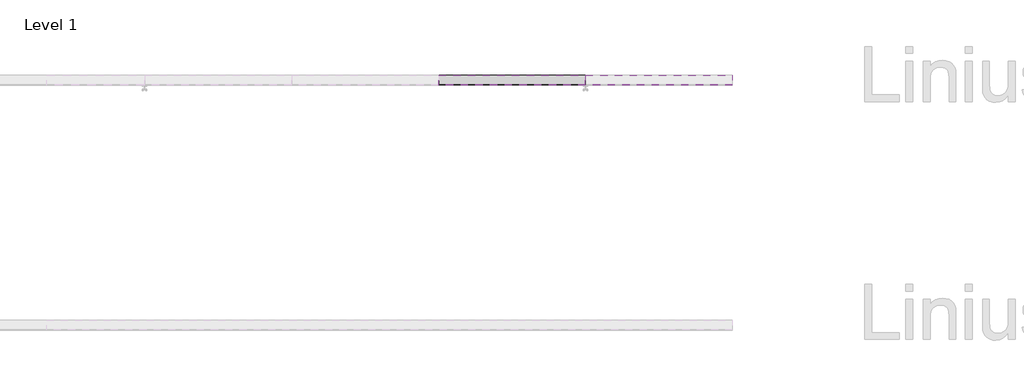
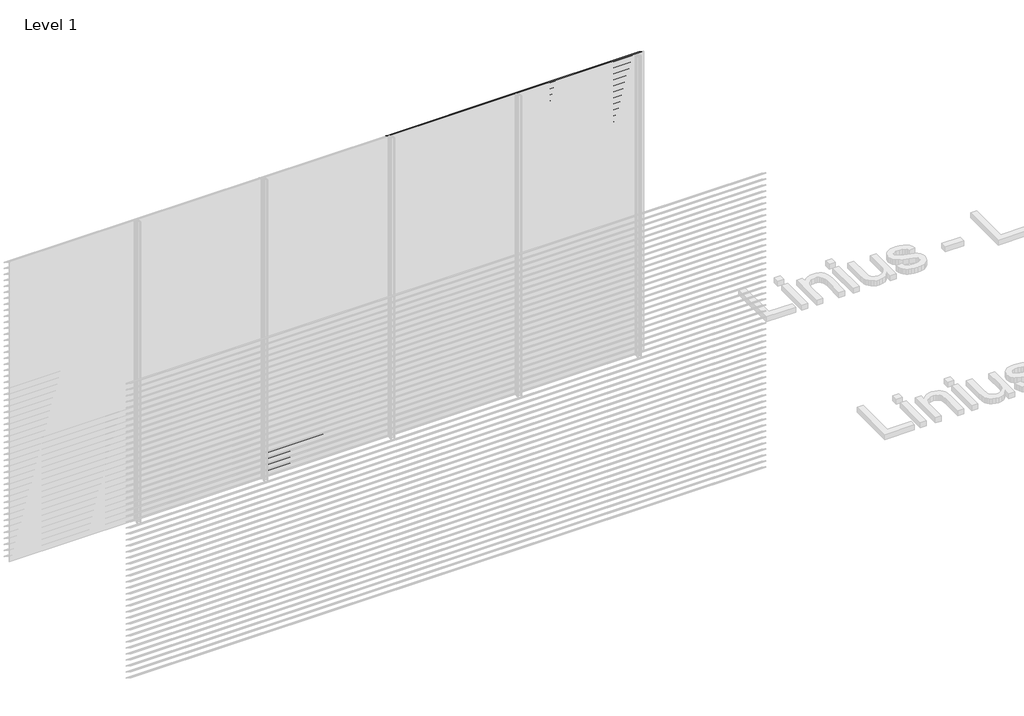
# One storey, part 22 of 153: 84 proxies.
"""IFC4 building model written with IfcOpenShell, lengths in millimetres."""

from ifc_helpers import new_model, si_unit, frame, origin, place, context, project, spatial, polyline, outline, extrude, element, save

model = new_model("IFC4")

# Units and contexts
model_context = context("Model", 3, world=origin())
ifc_project = project(units=[si_unit("LENGTHUNIT", "METRE", prefix="MILLI")], contexts=[model_context])

# Site, building, storey
site = spatial("IfcSite", under=ifc_project)
building = spatial("IfcBuilding", under=site)
storey = spatial("IfcBuildingStorey", under=building, Name="Level 1", Elevation=0.0)

# Proxies
placement = place(None, origin())
element("IfcBuildingElementProxy", 1, Name="Wall Sweeps", at=placement, inside=storey, context=model_context, shape_type="SweptSolid", body=[
    extrude(outline(polyline([(21561.0540136, 186.0), (21561.0540136, 180.0), (21559.8040136, 180.7216933), (21559.8040136, 185.2538091), (21483.0540136, 233.9915103), (21483.0540136, 240.0), (21484.3040136, 240.0), (21484.3040136, 234.7377012), (21561.0540136, 186.0)])), frame((2866.6208097, 0.0, 0.0), z_axis=(1.0, 0.0, 0.0), x_axis=(0.0, 1.0, 0.0)), (0.0, 0.0, 1.0), 1199.9999999),
])
element("IfcBuildingElementProxy", 2, Name="Wall Sweeps", at=placement, inside=storey, context=model_context, shape_type="SweptSolid", body=[
    extrude(outline(polyline([(21561.0540136, 126.0), (21561.0540136, 120.0), (21559.8040136, 120.7216933), (21559.8040136, 125.2538091), (21483.0540136, 173.9915103), (21483.0540136, 180.0), (21484.3040136, 180.0), (21484.3040136, 174.7377012), (21561.0540136, 126.0)])), frame((2866.6208097, 0.0, 0.0), z_axis=(1.0, 0.0, 0.0), x_axis=(0.0, 1.0, 0.0)), (0.0, 0.0, 1.0), 1199.9999999),
])
element("IfcBuildingElementProxy", 3, Name="Wall Sweeps", at=placement, inside=storey, context=model_context, shape_type="SweptSolid", body=[
    extrude(outline(polyline([(21561.0540136, 66.0), (21561.0540136, 60.0), (21559.8040136, 60.7216933), (21559.8040136, 65.2538091), (21483.0540136, 113.9915103), (21483.0540136, 120.0), (21484.3040136, 120.0), (21484.3040136, 114.7377012), (21561.0540136, 66.0)])), frame((2866.6208097, 0.0, 0.0), z_axis=(1.0, 0.0, 0.0), x_axis=(0.0, 1.0, 0.0)), (0.0, 0.0, 1.0), 1199.9999999),
])
element("IfcBuildingElementProxy", 4, Name="Wall Sweeps", at=placement, inside=storey, context=model_context, shape_type="SweptSolid", body=[
    extrude(outline(polyline([(21561.0540136, 6.0), (21561.0540136, 0.0), (21559.8040136, 0.7216933), (21559.8040136, 5.2538091), (21483.0540136, 53.9915103), (21483.0540136, 60.0), (21484.3040136, 60.0), (21484.3040136, 54.7377012), (21561.0540136, 6.0)])), frame((2866.6208097, 0.0, 0.0), z_axis=(1.0, 0.0, 0.0), x_axis=(0.0, 1.0, 0.0)), (0.0, 0.0, 1.0), 1199.9999999),
])
element("IfcBuildingElementProxy", 5, Name="Wall Sweeps", at=placement, inside=storey, context=model_context, shape_type="SweptSolid", body=[
    extrude(outline(polyline([(21561.0540136, 2946.0), (21561.0540136, 2940.0), (21559.8040136, 2940.7216933), (21559.8040136, 2945.2538091), (21483.0540136, 2993.9915103), (21483.0540136, 3000.0), (21484.3040136, 3000.0), (21484.3040136, 2994.7377012), (21561.0540136, 2946.0)])), frame((4066.6208096, 0.0, 0.0), z_axis=(1.0, 0.0, 0.0), x_axis=(0.0, 1.0, 0.0)), (0.0, 0.0, 1.0), 1199.9999999),
])
element("IfcBuildingElementProxy", 6, Name="Wall Sweeps", at=placement, inside=storey, context=model_context, shape_type="SweptSolid", body=[
    extrude(outline(polyline([(21561.0540136, 2886.0), (21561.0540136, 2880.0), (21559.8040136, 2880.7216933), (21559.8040136, 2885.2538091), (21483.0540136, 2933.9915103), (21483.0540136, 2940.0), (21484.3040136, 2940.0), (21484.3040136, 2934.7377012), (21561.0540136, 2886.0)])), frame((4066.6208096, 0.0, 0.0), z_axis=(1.0, 0.0, 0.0), x_axis=(0.0, 1.0, 0.0)), (0.0, 0.0, 1.0), 1199.9999999),
])
element("IfcBuildingElementProxy", 7, Name="Wall Sweeps", at=placement, inside=storey, context=model_context, shape_type="SweptSolid", body=[
    extrude(outline(polyline([(21561.0540136, 2826.0), (21561.0540136, 2820.0), (21559.8040136, 2820.7216933), (21559.8040136, 2825.2538091), (21483.0540136, 2873.9915103), (21483.0540136, 2880.0), (21484.3040136, 2880.0), (21484.3040136, 2874.7377012), (21561.0540136, 2826.0)])), frame((4066.6208096, 0.0, 0.0), z_axis=(1.0, 0.0, 0.0), x_axis=(0.0, 1.0, 0.0)), (0.0, 0.0, 1.0), 1199.9999999),
])
element("IfcBuildingElementProxy", 8, Name="Wall Sweeps", at=placement, inside=storey, context=model_context, shape_type="SweptSolid", body=[
    extrude(outline(polyline([(21561.0540136, 2766.0), (21561.0540136, 2760.0), (21559.8040136, 2760.7216933), (21559.8040136, 2765.2538091), (21483.0540136, 2813.9915103), (21483.0540136, 2820.0), (21484.3040136, 2820.0), (21484.3040136, 2814.7377012), (21561.0540136, 2766.0)])), frame((4066.6208096, 0.0, 0.0), z_axis=(1.0, 0.0, 0.0), x_axis=(0.0, 1.0, 0.0)), (0.0, 0.0, 1.0), 1199.9999999),
])
element("IfcBuildingElementProxy", 9, Name="Wall Sweeps", at=placement, inside=storey, context=model_context, shape_type="SweptSolid", body=[
    extrude(outline(polyline([(21561.0540136, 2706.0), (21561.0540136, 2700.0), (21559.8040136, 2700.7216933), (21559.8040136, 2705.2538091), (21483.0540136, 2753.9915103), (21483.0540136, 2760.0), (21484.3040136, 2760.0), (21484.3040136, 2754.7377012), (21561.0540136, 2706.0)])), frame((4066.6208096, 0.0, 0.0), z_axis=(1.0, 0.0, 0.0), x_axis=(0.0, 1.0, 0.0)), (0.0, 0.0, 1.0), 1199.9999999),
])
element("IfcBuildingElementProxy", 10, Name="Wall Sweeps", at=placement, inside=storey, context=model_context, shape_type="SweptSolid", body=[
    extrude(outline(polyline([(21561.0540136, 2646.0), (21561.0540136, 2640.0), (21559.8040136, 2640.7216933), (21559.8040136, 2645.2538091), (21483.0540136, 2693.9915103), (21483.0540136, 2700.0), (21484.3040136, 2700.0), (21484.3040136, 2694.7377012), (21561.0540136, 2646.0)])), frame((4066.6208096, 0.0, 0.0), z_axis=(1.0, 0.0, 0.0), x_axis=(0.0, 1.0, 0.0)), (0.0, 0.0, 1.0), 1199.9999999),
])
element("IfcBuildingElementProxy", 11, Name="Wall Sweeps", at=placement, inside=storey, context=model_context, shape_type="SweptSolid", body=[
    extrude(outline(polyline([(21561.0540136, 2586.0), (21561.0540136, 2580.0), (21559.8040136, 2580.7216933), (21559.8040136, 2585.2538091), (21483.0540136, 2633.9915103), (21483.0540136, 2640.0), (21484.3040136, 2640.0), (21484.3040136, 2634.7377012), (21561.0540136, 2586.0)])), frame((4066.6208096, 0.0, 0.0), z_axis=(1.0, 0.0, 0.0), x_axis=(0.0, 1.0, 0.0)), (0.0, 0.0, 1.0), 1199.9999999),
])
element("IfcBuildingElementProxy", 12, Name="Wall Sweeps", at=placement, inside=storey, context=model_context, shape_type="SweptSolid", body=[
    extrude(outline(polyline([(21561.0540136, 2526.0), (21561.0540136, 2520.0), (21559.8040136, 2520.7216933), (21559.8040136, 2525.2538091), (21483.0540136, 2573.9915103), (21483.0540136, 2580.0), (21484.3040136, 2580.0), (21484.3040136, 2574.7377012), (21561.0540136, 2526.0)])), frame((4066.6208096, 0.0, 0.0), z_axis=(1.0, 0.0, 0.0), x_axis=(0.0, 1.0, 0.0)), (0.0, 0.0, 1.0), 1199.9999999),
])
element("IfcBuildingElementProxy", 13, Name="Wall Sweeps", at=placement, inside=storey, context=model_context, shape_type="SweptSolid", body=[
    extrude(outline(polyline([(21561.0540136, 2466.0), (21561.0540136, 2460.0), (21559.8040136, 2460.7216933), (21559.8040136, 2465.2538091), (21483.0540136, 2513.9915103), (21483.0540136, 2520.0), (21484.3040136, 2520.0), (21484.3040136, 2514.7377012), (21561.0540136, 2466.0)])), frame((4066.6208096, 0.0, 0.0), z_axis=(1.0, 0.0, 0.0), x_axis=(0.0, 1.0, 0.0)), (0.0, 0.0, 1.0), 1199.9999999),
])
element("IfcBuildingElementProxy", 14, Name="Wall Sweeps", at=placement, inside=storey, context=model_context, shape_type="SweptSolid", body=[
    extrude(outline(polyline([(21561.0540136, 2406.0), (21561.0540136, 2400.0), (21559.8040136, 2400.7216933), (21559.8040136, 2405.2538091), (21483.0540136, 2453.9915103), (21483.0540136, 2460.0), (21484.3040136, 2460.0), (21484.3040136, 2454.7377012), (21561.0540136, 2406.0)])), frame((4066.6208096, 0.0, 0.0), z_axis=(1.0, 0.0, 0.0), x_axis=(0.0, 1.0, 0.0)), (0.0, 0.0, 1.0), 1199.9999999),
])
element("IfcBuildingElementProxy", 15, Name="Wall Sweeps", at=placement, inside=storey, context=model_context, shape_type="SweptSolid", body=[
    extrude(outline(polyline([(21561.0540136, 2346.0), (21561.0540136, 2340.0), (21559.8040136, 2340.7216933), (21559.8040136, 2345.2538091), (21483.0540136, 2393.9915103), (21483.0540136, 2400.0), (21484.3040136, 2400.0), (21484.3040136, 2394.7377012), (21561.0540136, 2346.0)])), frame((4066.6208096, 0.0, 0.0), z_axis=(1.0, 0.0, 0.0), x_axis=(0.0, 1.0, 0.0)), (0.0, 0.0, 1.0), 1199.9999999),
])
element("IfcBuildingElementProxy", 16, Name="Wall Sweeps", at=placement, inside=storey, context=model_context, shape_type="SweptSolid", body=[
    extrude(outline(polyline([(21561.0540136, 2286.0), (21561.0540136, 2280.0), (21559.8040136, 2280.7216933), (21559.8040136, 2285.2538091), (21483.0540136, 2333.9915103), (21483.0540136, 2340.0), (21484.3040136, 2340.0), (21484.3040136, 2334.7377012), (21561.0540136, 2286.0)])), frame((4066.6208096, 0.0, 0.0), z_axis=(1.0, 0.0, 0.0), x_axis=(0.0, 1.0, 0.0)), (0.0, 0.0, 1.0), 1199.9999999),
])
element("IfcBuildingElementProxy", 17, Name="Wall Sweeps", at=placement, inside=storey, context=model_context, shape_type="SweptSolid", body=[
    extrude(outline(polyline([(21561.0540136, 2226.0), (21561.0540136, 2220.0), (21559.8040136, 2220.7216933), (21559.8040136, 2225.2538091), (21483.0540136, 2273.9915103), (21483.0540136, 2280.0), (21484.3040136, 2280.0), (21484.3040136, 2274.7377012), (21561.0540136, 2226.0)])), frame((4066.6208096, 0.0, 0.0), z_axis=(1.0, 0.0, 0.0), x_axis=(0.0, 1.0, 0.0)), (0.0, 0.0, 1.0), 1199.9999999),
])
element("IfcBuildingElementProxy", 18, Name="Wall Sweeps", at=placement, inside=storey, context=model_context, shape_type="SweptSolid", body=[
    extrude(outline(polyline([(21561.0540136, 2166.0), (21561.0540136, 2160.0), (21559.8040136, 2160.7216933), (21559.8040136, 2165.2538091), (21483.0540136, 2213.9915103), (21483.0540136, 2220.0), (21484.3040136, 2220.0), (21484.3040136, 2214.7377012), (21561.0540136, 2166.0)])), frame((4066.6208096, 0.0, 0.0), z_axis=(1.0, 0.0, 0.0), x_axis=(0.0, 1.0, 0.0)), (0.0, 0.0, 1.0), 1199.9999999),
])
element("IfcBuildingElementProxy", 19, Name="Wall Sweeps", at=placement, inside=storey, context=model_context, shape_type="SweptSolid", body=[
    extrude(outline(polyline([(21561.0540136, 2106.0), (21561.0540136, 2100.0), (21559.8040136, 2100.7216933), (21559.8040136, 2105.2538091), (21483.0540136, 2153.9915103), (21483.0540136, 2160.0), (21484.3040136, 2160.0), (21484.3040136, 2154.7377012), (21561.0540136, 2106.0)])), frame((4066.6208096, 0.0, 0.0), z_axis=(1.0, 0.0, 0.0), x_axis=(0.0, 1.0, 0.0)), (0.0, 0.0, 1.0), 1199.9999999),
])
element("IfcBuildingElementProxy", 20, Name="Wall Sweeps", at=placement, inside=storey, context=model_context, shape_type="SweptSolid", body=[
    extrude(outline(polyline([(21561.0540136, 2046.0), (21561.0540136, 2040.0), (21559.8040136, 2040.7216933), (21559.8040136, 2045.2538091), (21483.0540136, 2093.9915103), (21483.0540136, 2100.0), (21484.3040136, 2100.0), (21484.3040136, 2094.7377012), (21561.0540136, 2046.0)])), frame((4066.6208096, 0.0, 0.0), z_axis=(1.0, 0.0, 0.0), x_axis=(0.0, 1.0, 0.0)), (0.0, 0.0, 1.0), 1199.9999999),
])
element("IfcBuildingElementProxy", 21, Name="Wall Sweeps", at=placement, inside=storey, context=model_context, shape_type="SweptSolid", body=[
    extrude(outline(polyline([(21561.0540136, 1986.0), (21561.0540136, 1980.0), (21559.8040136, 1980.7216933), (21559.8040136, 1985.2538091), (21483.0540136, 2033.9915103), (21483.0540136, 2040.0), (21484.3040136, 2040.0), (21484.3040136, 2034.7377012), (21561.0540136, 1986.0)])), frame((4066.6208096, 0.0, 0.0), z_axis=(1.0, 0.0, 0.0), x_axis=(0.0, 1.0, 0.0)), (0.0, 0.0, 1.0), 1199.9999999),
])
element("IfcBuildingElementProxy", 22, Name="Wall Sweeps", at=placement, inside=storey, context=model_context, shape_type="SweptSolid", body=[
    extrude(outline(polyline([(21561.0540136, 1926.0), (21561.0540136, 1920.0), (21559.8040136, 1920.7216933), (21559.8040136, 1925.2538091), (21483.0540136, 1973.9915103), (21483.0540136, 1980.0), (21484.3040136, 1980.0), (21484.3040136, 1974.7377012), (21561.0540136, 1926.0)])), frame((4066.6208096, 0.0, 0.0), z_axis=(1.0, 0.0, 0.0), x_axis=(0.0, 1.0, 0.0)), (0.0, 0.0, 1.0), 1199.9999999),
])
element("IfcBuildingElementProxy", 23, Name="Wall Sweeps", at=placement, inside=storey, context=model_context, shape_type="SweptSolid", body=[
    extrude(outline(polyline([(21561.0540136, 1866.0), (21561.0540136, 1860.0), (21559.8040136, 1860.7216933), (21559.8040136, 1865.2538091), (21483.0540136, 1913.9915103), (21483.0540136, 1920.0), (21484.3040136, 1920.0), (21484.3040136, 1914.7377012), (21561.0540136, 1866.0)])), frame((4066.6208096, 0.0, 0.0), z_axis=(1.0, 0.0, 0.0), x_axis=(0.0, 1.0, 0.0)), (0.0, 0.0, 1.0), 1199.9999999),
])
element("IfcBuildingElementProxy", 24, Name="Wall Sweeps", at=placement, inside=storey, context=model_context, shape_type="SweptSolid", body=[
    extrude(outline(polyline([(21561.0540136, 1806.0), (21561.0540136, 1800.0), (21559.8040136, 1800.7216933), (21559.8040136, 1805.2538091), (21483.0540136, 1853.9915103), (21483.0540136, 1860.0), (21484.3040136, 1860.0), (21484.3040136, 1854.7377012), (21561.0540136, 1806.0)])), frame((4066.6208096, 0.0, 0.0), z_axis=(1.0, 0.0, 0.0), x_axis=(0.0, 1.0, 0.0)), (0.0, 0.0, 1.0), 1199.9999999),
])
element("IfcBuildingElementProxy", 25, Name="Wall Sweeps", at=placement, inside=storey, context=model_context, shape_type="SweptSolid", body=[
    extrude(outline(polyline([(21561.0540136, 1746.0), (21561.0540136, 1740.0), (21559.8040136, 1740.7216933), (21559.8040136, 1745.2538091), (21483.0540136, 1793.9915103), (21483.0540136, 1800.0), (21484.3040136, 1800.0), (21484.3040136, 1794.7377012), (21561.0540136, 1746.0)])), frame((4066.6208096, 0.0, 0.0), z_axis=(1.0, 0.0, 0.0), x_axis=(0.0, 1.0, 0.0)), (0.0, 0.0, 1.0), 1199.9999999),
])
element("IfcBuildingElementProxy", 26, Name="Wall Sweeps", at=placement, inside=storey, context=model_context, shape_type="SweptSolid", body=[
    extrude(outline(polyline([(21561.0540136, 1686.0), (21561.0540136, 1680.0), (21559.8040136, 1680.7216933), (21559.8040136, 1685.2538091), (21483.0540136, 1733.9915103), (21483.0540136, 1740.0), (21484.3040136, 1740.0), (21484.3040136, 1734.7377012), (21561.0540136, 1686.0)])), frame((4066.6208096, 0.0, 0.0), z_axis=(1.0, 0.0, 0.0), x_axis=(0.0, 1.0, 0.0)), (0.0, 0.0, 1.0), 1199.9999999),
])
element("IfcBuildingElementProxy", 27, Name="Wall Sweeps", at=placement, inside=storey, context=model_context, shape_type="SweptSolid", body=[
    extrude(outline(polyline([(21561.0540136, 1626.0), (21561.0540136, 1620.0), (21559.8040136, 1620.7216933), (21559.8040136, 1625.2538091), (21483.0540136, 1673.9915103), (21483.0540136, 1680.0), (21484.3040136, 1680.0), (21484.3040136, 1674.7377012), (21561.0540136, 1626.0)])), frame((4066.6208096, 0.0, 0.0), z_axis=(1.0, 0.0, 0.0), x_axis=(0.0, 1.0, 0.0)), (0.0, 0.0, 1.0), 1199.9999999),
])
element("IfcBuildingElementProxy", 28, Name="Wall Sweeps", at=placement, inside=storey, context=model_context, shape_type="SweptSolid", body=[
    extrude(outline(polyline([(21561.0540136, 1566.0), (21561.0540136, 1560.0), (21559.8040136, 1560.7216933), (21559.8040136, 1565.2538091), (21483.0540136, 1613.9915103), (21483.0540136, 1620.0), (21484.3040136, 1620.0), (21484.3040136, 1614.7377012), (21561.0540136, 1566.0)])), frame((4066.6208096, 0.0, 0.0), z_axis=(1.0, 0.0, 0.0), x_axis=(0.0, 1.0, 0.0)), (0.0, 0.0, 1.0), 1199.9999999),
])
element("IfcBuildingElementProxy", 29, Name="Wall Sweeps", at=placement, inside=storey, context=model_context, shape_type="SweptSolid", body=[
    extrude(outline(polyline([(21561.0540136, 1506.0), (21561.0540136, 1500.0), (21559.8040136, 1500.7216933), (21559.8040136, 1505.2538091), (21483.0540136, 1553.9915103), (21483.0540136, 1560.0), (21484.3040136, 1560.0), (21484.3040136, 1554.7377012), (21561.0540136, 1506.0)])), frame((4066.6208096, 0.0, 0.0), z_axis=(1.0, 0.0, 0.0), x_axis=(0.0, 1.0, 0.0)), (0.0, 0.0, 1.0), 1199.9999999),
])
element("IfcBuildingElementProxy", 30, Name="Wall Sweeps", at=placement, inside=storey, context=model_context, shape_type="SweptSolid", body=[
    extrude(outline(polyline([(21561.0540136, 1446.0), (21561.0540136, 1440.0), (21559.8040136, 1440.7216933), (21559.8040136, 1445.2538091), (21483.0540136, 1493.9915103), (21483.0540136, 1500.0), (21484.3040136, 1500.0), (21484.3040136, 1494.7377012), (21561.0540136, 1446.0)])), frame((4066.6208096, 0.0, 0.0), z_axis=(1.0, 0.0, 0.0), x_axis=(0.0, 1.0, 0.0)), (0.0, 0.0, 1.0), 1199.9999999),
])
element("IfcBuildingElementProxy", 31, Name="Wall Sweeps", at=placement, inside=storey, context=model_context, shape_type="SweptSolid", body=[
    extrude(outline(polyline([(21561.0540136, 1386.0), (21561.0540136, 1380.0), (21559.8040136, 1380.7216933), (21559.8040136, 1385.2538091), (21483.0540136, 1433.9915103), (21483.0540136, 1440.0), (21484.3040136, 1440.0), (21484.3040136, 1434.7377012), (21561.0540136, 1386.0)])), frame((4066.6208096, 0.0, 0.0), z_axis=(1.0, 0.0, 0.0), x_axis=(0.0, 1.0, 0.0)), (0.0, 0.0, 1.0), 1199.9999999),
])
element("IfcBuildingElementProxy", 32, Name="Wall Sweeps", at=placement, inside=storey, context=model_context, shape_type="SweptSolid", body=[
    extrude(outline(polyline([(21561.0540136, 1326.0), (21561.0540136, 1320.0), (21559.8040136, 1320.7216933), (21559.8040136, 1325.2538091), (21483.0540136, 1373.9915103), (21483.0540136, 1380.0), (21484.3040136, 1380.0), (21484.3040136, 1374.7377012), (21561.0540136, 1326.0)])), frame((4066.6208096, 0.0, 0.0), z_axis=(1.0, 0.0, 0.0), x_axis=(0.0, 1.0, 0.0)), (0.0, 0.0, 1.0), 1199.9999999),
])
element("IfcBuildingElementProxy", 33, Name="Wall Sweeps", at=placement, inside=storey, context=model_context, shape_type="SweptSolid", body=[
    extrude(outline(polyline([(21561.0540136, 1266.0), (21561.0540136, 1260.0), (21559.8040136, 1260.7216933), (21559.8040136, 1265.2538091), (21483.0540136, 1313.9915103), (21483.0540136, 1320.0), (21484.3040136, 1320.0), (21484.3040136, 1314.7377012), (21561.0540136, 1266.0)])), frame((4066.6208096, 0.0, 0.0), z_axis=(1.0, 0.0, 0.0), x_axis=(0.0, 1.0, 0.0)), (0.0, 0.0, 1.0), 1199.9999999),
])
element("IfcBuildingElementProxy", 34, Name="Wall Sweeps", at=placement, inside=storey, context=model_context, shape_type="SweptSolid", body=[
    extrude(outline(polyline([(21561.0540136, 1206.0), (21561.0540136, 1200.0), (21559.8040136, 1200.7216933), (21559.8040136, 1205.2538091), (21483.0540136, 1253.9915103), (21483.0540136, 1260.0), (21484.3040136, 1260.0), (21484.3040136, 1254.7377012), (21561.0540136, 1206.0)])), frame((4066.6208096, 0.0, 0.0), z_axis=(1.0, 0.0, 0.0), x_axis=(0.0, 1.0, 0.0)), (0.0, 0.0, 1.0), 1199.9999999),
])
element("IfcBuildingElementProxy", 35, Name="Wall Sweeps", at=placement, inside=storey, context=model_context, shape_type="SweptSolid", body=[
    extrude(outline(polyline([(21561.0540136, 1146.0), (21561.0540136, 1140.0), (21559.8040136, 1140.7216933), (21559.8040136, 1145.2538091), (21483.0540136, 1193.9915103), (21483.0540136, 1200.0), (21484.3040136, 1200.0), (21484.3040136, 1194.7377012), (21561.0540136, 1146.0)])), frame((4066.6208096, 0.0, 0.0), z_axis=(1.0, 0.0, 0.0), x_axis=(0.0, 1.0, 0.0)), (0.0, 0.0, 1.0), 1199.9999999),
])
element("IfcBuildingElementProxy", 36, Name="Wall Sweeps", at=placement, inside=storey, context=model_context, shape_type="SweptSolid", body=[
    extrude(outline(polyline([(21561.0540136, 1086.0), (21561.0540136, 1080.0), (21559.8040136, 1080.7216933), (21559.8040136, 1085.2538091), (21483.0540136, 1133.9915103), (21483.0540136, 1140.0), (21484.3040136, 1140.0), (21484.3040136, 1134.7377012), (21561.0540136, 1086.0)])), frame((4066.6208096, 0.0, 0.0), z_axis=(1.0, 0.0, 0.0), x_axis=(0.0, 1.0, 0.0)), (0.0, 0.0, 1.0), 1199.9999999),
])
element("IfcBuildingElementProxy", 37, Name="Wall Sweeps", at=placement, inside=storey, context=model_context, shape_type="SweptSolid", body=[
    extrude(outline(polyline([(21561.0540136, 1026.0), (21561.0540136, 1020.0), (21559.8040136, 1020.7216933), (21559.8040136, 1025.2538091), (21483.0540136, 1073.9915103), (21483.0540136, 1080.0), (21484.3040136, 1080.0), (21484.3040136, 1074.7377012), (21561.0540136, 1026.0)])), frame((4066.6208096, 0.0, 0.0), z_axis=(1.0, 0.0, 0.0), x_axis=(0.0, 1.0, 0.0)), (0.0, 0.0, 1.0), 1199.9999999),
])
element("IfcBuildingElementProxy", 38, Name="Wall Sweeps", at=placement, inside=storey, context=model_context, shape_type="SweptSolid", body=[
    extrude(outline(polyline([(21561.0540136, 966.0), (21561.0540136, 960.0), (21559.8040136, 960.7216933), (21559.8040136, 965.2538091), (21483.0540136, 1013.9915103), (21483.0540136, 1020.0), (21484.3040136, 1020.0), (21484.3040136, 1014.7377012), (21561.0540136, 966.0)])), frame((4066.6208096, 0.0, 0.0), z_axis=(1.0, 0.0, 0.0), x_axis=(0.0, 1.0, 0.0)), (0.0, 0.0, 1.0), 1199.9999999),
])
element("IfcBuildingElementProxy", 39, Name="Wall Sweeps", at=placement, inside=storey, context=model_context, shape_type="SweptSolid", body=[
    extrude(outline(polyline([(21561.0540136, 906.0), (21561.0540136, 900.0), (21559.8040136, 900.7216933), (21559.8040136, 905.2538091), (21483.0540136, 953.9915103), (21483.0540136, 960.0), (21484.3040136, 960.0), (21484.3040136, 954.7377012), (21561.0540136, 906.0)])), frame((4066.6208096, 0.0, 0.0), z_axis=(1.0, 0.0, 0.0), x_axis=(0.0, 1.0, 0.0)), (0.0, 0.0, 1.0), 1199.9999999),
])
element("IfcBuildingElementProxy", 40, Name="Wall Sweeps", at=placement, inside=storey, context=model_context, shape_type="SweptSolid", body=[
    extrude(outline(polyline([(21561.0540136, 846.0), (21561.0540136, 840.0), (21559.8040136, 840.7216933), (21559.8040136, 845.2538091), (21483.0540136, 893.9915103), (21483.0540136, 900.0), (21484.3040136, 900.0), (21484.3040136, 894.7377012), (21561.0540136, 846.0)])), frame((4066.6208096, 0.0, 0.0), z_axis=(1.0, 0.0, 0.0), x_axis=(0.0, 1.0, 0.0)), (0.0, 0.0, 1.0), 1199.9999999),
])
element("IfcBuildingElementProxy", 41, Name="Wall Sweeps", at=placement, inside=storey, context=model_context, shape_type="SweptSolid", body=[
    extrude(outline(polyline([(21561.0540136, 786.0), (21561.0540136, 780.0), (21559.8040136, 780.7216933), (21559.8040136, 785.2538091), (21483.0540136, 833.9915103), (21483.0540136, 840.0), (21484.3040136, 840.0), (21484.3040136, 834.7377012), (21561.0540136, 786.0)])), frame((4066.6208096, 0.0, 0.0), z_axis=(1.0, 0.0, 0.0), x_axis=(0.0, 1.0, 0.0)), (0.0, 0.0, 1.0), 1199.9999999),
])
element("IfcBuildingElementProxy", 42, Name="Wall Sweeps", at=placement, inside=storey, context=model_context, shape_type="SweptSolid", body=[
    extrude(outline(polyline([(21561.0540136, 726.0), (21561.0540136, 720.0), (21559.8040136, 720.7216933), (21559.8040136, 725.2538091), (21483.0540136, 773.9915103), (21483.0540136, 780.0), (21484.3040136, 780.0), (21484.3040136, 774.7377012), (21561.0540136, 726.0)])), frame((4066.6208096, 0.0, 0.0), z_axis=(1.0, 0.0, 0.0), x_axis=(0.0, 1.0, 0.0)), (0.0, 0.0, 1.0), 1199.9999999),
])
element("IfcBuildingElementProxy", 43, Name="Wall Sweeps", at=placement, inside=storey, context=model_context, shape_type="SweptSolid", body=[
    extrude(outline(polyline([(21561.0540136, 666.0), (21561.0540136, 660.0), (21559.8040136, 660.7216933), (21559.8040136, 665.2538091), (21483.0540136, 713.9915103), (21483.0540136, 720.0), (21484.3040136, 720.0), (21484.3040136, 714.7377012), (21561.0540136, 666.0)])), frame((4066.6208096, 0.0, 0.0), z_axis=(1.0, 0.0, 0.0), x_axis=(0.0, 1.0, 0.0)), (0.0, 0.0, 1.0), 1199.9999999),
])
element("IfcBuildingElementProxy", 44, Name="Wall Sweeps", at=placement, inside=storey, context=model_context, shape_type="SweptSolid", body=[
    extrude(outline(polyline([(21561.0540136, 606.0), (21561.0540136, 600.0), (21559.8040136, 600.7216933), (21559.8040136, 605.2538091), (21483.0540136, 653.9915103), (21483.0540136, 660.0), (21484.3040136, 660.0), (21484.3040136, 654.7377012), (21561.0540136, 606.0)])), frame((4066.6208096, 0.0, 0.0), z_axis=(1.0, 0.0, 0.0), x_axis=(0.0, 1.0, 0.0)), (0.0, 0.0, 1.0), 1199.9999999),
])
element("IfcBuildingElementProxy", 45, Name="Wall Sweeps", at=placement, inside=storey, context=model_context, shape_type="SweptSolid", body=[
    extrude(outline(polyline([(21561.0540136, 546.0), (21561.0540136, 540.0), (21559.8040136, 540.7216933), (21559.8040136, 545.2538091), (21483.0540136, 593.9915103), (21483.0540136, 600.0), (21484.3040136, 600.0), (21484.3040136, 594.7377012), (21561.0540136, 546.0)])), frame((4066.6208096, 0.0, 0.0), z_axis=(1.0, 0.0, 0.0), x_axis=(0.0, 1.0, 0.0)), (0.0, 0.0, 1.0), 1199.9999999),
])
element("IfcBuildingElementProxy", 46, Name="Wall Sweeps", at=placement, inside=storey, context=model_context, shape_type="SweptSolid", body=[
    extrude(outline(polyline([(21561.0540136, 486.0), (21561.0540136, 480.0), (21559.8040136, 480.7216933), (21559.8040136, 485.2538091), (21483.0540136, 533.9915103), (21483.0540136, 540.0), (21484.3040136, 540.0), (21484.3040136, 534.7377012), (21561.0540136, 486.0)])), frame((4066.6208096, 0.0, 0.0), z_axis=(1.0, 0.0, 0.0), x_axis=(0.0, 1.0, 0.0)), (0.0, 0.0, 1.0), 1199.9999999),
])
element("IfcBuildingElementProxy", 47, Name="Wall Sweeps", at=placement, inside=storey, context=model_context, shape_type="SweptSolid", body=[
    extrude(outline(polyline([(21561.0540136, 426.0), (21561.0540136, 420.0), (21559.8040136, 420.7216933), (21559.8040136, 425.2538091), (21483.0540136, 473.9915103), (21483.0540136, 480.0), (21484.3040136, 480.0), (21484.3040136, 474.7377012), (21561.0540136, 426.0)])), frame((4066.6208096, 0.0, 0.0), z_axis=(1.0, 0.0, 0.0), x_axis=(0.0, 1.0, 0.0)), (0.0, 0.0, 1.0), 1199.9999999),
])
element("IfcBuildingElementProxy", 48, Name="Wall Sweeps", at=placement, inside=storey, context=model_context, shape_type="SweptSolid", body=[
    extrude(outline(polyline([(21561.0540136, 366.0), (21561.0540136, 360.0), (21559.8040136, 360.7216933), (21559.8040136, 365.2538091), (21483.0540136, 413.9915103), (21483.0540136, 420.0), (21484.3040136, 420.0), (21484.3040136, 414.7377012), (21561.0540136, 366.0)])), frame((4066.6208096, 0.0, 0.0), z_axis=(1.0, 0.0, 0.0), x_axis=(0.0, 1.0, 0.0)), (0.0, 0.0, 1.0), 1199.9999999),
])
element("IfcBuildingElementProxy", 49, Name="Wall Sweeps", at=placement, inside=storey, context=model_context, shape_type="SweptSolid", body=[
    extrude(outline(polyline([(21561.0540136, 306.0), (21561.0540136, 300.0), (21559.8040136, 300.7216933), (21559.8040136, 305.2538091), (21483.0540136, 353.9915103), (21483.0540136, 360.0), (21484.3040136, 360.0), (21484.3040136, 354.7377012), (21561.0540136, 306.0)])), frame((4066.6208096, 0.0, 0.0), z_axis=(1.0, 0.0, 0.0), x_axis=(0.0, 1.0, 0.0)), (0.0, 0.0, 1.0), 1199.9999999),
])
element("IfcBuildingElementProxy", 50, Name="Wall Sweeps", at=placement, inside=storey, context=model_context, shape_type="SweptSolid", body=[
    extrude(outline(polyline([(21561.0540136, 246.0), (21561.0540136, 240.0), (21559.8040136, 240.7216933), (21559.8040136, 245.2538091), (21483.0540136, 293.9915103), (21483.0540136, 300.0), (21484.3040136, 300.0), (21484.3040136, 294.7377012), (21561.0540136, 246.0)])), frame((4066.6208096, 0.0, 0.0), z_axis=(1.0, 0.0, 0.0), x_axis=(0.0, 1.0, 0.0)), (0.0, 0.0, 1.0), 1199.9999999),
])
element("IfcBuildingElementProxy", 51, Name="Wall Sweeps", at=placement, inside=storey, context=model_context, shape_type="SweptSolid", body=[
    extrude(outline(polyline([(21561.0540136, 186.0), (21561.0540136, 180.0), (21559.8040136, 180.7216933), (21559.8040136, 185.2538091), (21483.0540136, 233.9915103), (21483.0540136, 240.0), (21484.3040136, 240.0), (21484.3040136, 234.7377012), (21561.0540136, 186.0)])), frame((4066.6208096, 0.0, 0.0), z_axis=(1.0, 0.0, 0.0), x_axis=(0.0, 1.0, 0.0)), (0.0, 0.0, 1.0), 1199.9999999),
])
element("IfcBuildingElementProxy", 52, Name="Wall Sweeps", at=placement, inside=storey, context=model_context, shape_type="SweptSolid", body=[
    extrude(outline(polyline([(21561.0540136, 126.0), (21561.0540136, 120.0), (21559.8040136, 120.7216933), (21559.8040136, 125.2538091), (21483.0540136, 173.9915103), (21483.0540136, 180.0), (21484.3040136, 180.0), (21484.3040136, 174.7377012), (21561.0540136, 126.0)])), frame((4066.6208096, 0.0, 0.0), z_axis=(1.0, 0.0, 0.0), x_axis=(0.0, 1.0, 0.0)), (0.0, 0.0, 1.0), 1199.9999999),
])
element("IfcBuildingElementProxy", 53, Name="Wall Sweeps", at=placement, inside=storey, context=model_context, shape_type="SweptSolid", body=[
    extrude(outline(polyline([(21561.0540136, 66.0), (21561.0540136, 60.0), (21559.8040136, 60.7216933), (21559.8040136, 65.2538091), (21483.0540136, 113.9915103), (21483.0540136, 120.0), (21484.3040136, 120.0), (21484.3040136, 114.7377012), (21561.0540136, 66.0)])), frame((4066.6208096, 0.0, 0.0), z_axis=(1.0, 0.0, 0.0), x_axis=(0.0, 1.0, 0.0)), (0.0, 0.0, 1.0), 1199.9999999),
])
element("IfcBuildingElementProxy", 54, Name="Wall Sweeps", at=placement, inside=storey, context=model_context, shape_type="SweptSolid", body=[
    extrude(outline(polyline([(21561.0540136, 6.0), (21561.0540136, 0.0), (21559.8040136, 0.7216933), (21559.8040136, 5.2538091), (21483.0540136, 53.9915103), (21483.0540136, 60.0), (21484.3040136, 60.0), (21484.3040136, 54.7377012), (21561.0540136, 6.0)])), frame((4066.6208096, 0.0, 0.0), z_axis=(1.0, 0.0, 0.0), x_axis=(0.0, 1.0, 0.0)), (0.0, 0.0, 1.0), 1199.9999999),
])
element("IfcBuildingElementProxy", 55, Name="Wall Sweeps", at=placement, inside=storey, context=model_context, shape_type="SweptSolid", body=[
    extrude(outline(polyline([(21561.0540136, 2946.0), (21561.0540136, 2940.0), (21559.8040136, 2940.7216933), (21559.8040136, 2945.2538091), (21483.0540136, 2993.9915103), (21483.0540136, 3000.0), (21484.3040136, 3000.0), (21484.3040136, 2994.7377012), (21561.0540136, 2946.0)])), frame((5266.6208095, 0.0, 0.0), z_axis=(1.0, 0.0, 0.0), x_axis=(0.0, 1.0, 0.0)), (0.0, 0.0, 1.0), 1200.0000002),
])
element("IfcBuildingElementProxy", 56, Name="Wall Sweeps", at=placement, inside=storey, context=model_context, shape_type="SweptSolid", body=[
    extrude(outline(polyline([(21561.0540136, 2886.0), (21561.0540136, 2880.0), (21559.8040136, 2880.7216933), (21559.8040136, 2885.2538091), (21483.0540136, 2933.9915103), (21483.0540136, 2940.0), (21484.3040136, 2940.0), (21484.3040136, 2934.7377012), (21561.0540136, 2886.0)])), frame((5266.6208095, 0.0, 0.0), z_axis=(1.0, 0.0, 0.0), x_axis=(0.0, 1.0, 0.0)), (0.0, 0.0, 1.0), 1200.0000002),
])
element("IfcBuildingElementProxy", 57, Name="Wall Sweeps", at=placement, inside=storey, context=model_context, shape_type="SweptSolid", body=[
    extrude(outline(polyline([(21561.0540136, 2826.0), (21561.0540136, 2820.0), (21559.8040136, 2820.7216933), (21559.8040136, 2825.2538091), (21483.0540136, 2873.9915103), (21483.0540136, 2880.0), (21484.3040136, 2880.0), (21484.3040136, 2874.7377012), (21561.0540136, 2826.0)])), frame((5266.6208095, 0.0, 0.0), z_axis=(1.0, 0.0, 0.0), x_axis=(0.0, 1.0, 0.0)), (0.0, 0.0, 1.0), 1200.0000002),
])
element("IfcBuildingElementProxy", 58, Name="Wall Sweeps", at=placement, inside=storey, context=model_context, shape_type="SweptSolid", body=[
    extrude(outline(polyline([(21561.0540136, 2766.0), (21561.0540136, 2760.0), (21559.8040136, 2760.7216933), (21559.8040136, 2765.2538091), (21483.0540136, 2813.9915103), (21483.0540136, 2820.0), (21484.3040136, 2820.0), (21484.3040136, 2814.7377012), (21561.0540136, 2766.0)])), frame((5266.6208095, 0.0, 0.0), z_axis=(1.0, 0.0, 0.0), x_axis=(0.0, 1.0, 0.0)), (0.0, 0.0, 1.0), 1200.0000002),
])
element("IfcBuildingElementProxy", 59, Name="Wall Sweeps", at=placement, inside=storey, context=model_context, shape_type="SweptSolid", body=[
    extrude(outline(polyline([(21561.0540136, 2706.0), (21561.0540136, 2700.0), (21559.8040136, 2700.7216933), (21559.8040136, 2705.2538091), (21483.0540136, 2753.9915103), (21483.0540136, 2760.0), (21484.3040136, 2760.0), (21484.3040136, 2754.7377012), (21561.0540136, 2706.0)])), frame((5266.6208095, 0.0, 0.0), z_axis=(1.0, 0.0, 0.0), x_axis=(0.0, 1.0, 0.0)), (0.0, 0.0, 1.0), 1200.0000002),
])
element("IfcBuildingElementProxy", 60, Name="Wall Sweeps", at=placement, inside=storey, context=model_context, shape_type="SweptSolid", body=[
    extrude(outline(polyline([(21561.0540136, 2646.0), (21561.0540136, 2640.0), (21559.8040136, 2640.7216933), (21559.8040136, 2645.2538091), (21483.0540136, 2693.9915103), (21483.0540136, 2700.0), (21484.3040136, 2700.0), (21484.3040136, 2694.7377012), (21561.0540136, 2646.0)])), frame((5266.6208095, 0.0, 0.0), z_axis=(1.0, 0.0, 0.0), x_axis=(0.0, 1.0, 0.0)), (0.0, 0.0, 1.0), 1200.0000002),
])
element("IfcBuildingElementProxy", 61, Name="Wall Sweeps", at=placement, inside=storey, context=model_context, shape_type="SweptSolid", body=[
    extrude(outline(polyline([(21561.0540136, 2586.0), (21561.0540136, 2580.0), (21559.8040136, 2580.7216933), (21559.8040136, 2585.2538091), (21483.0540136, 2633.9915103), (21483.0540136, 2640.0), (21484.3040136, 2640.0), (21484.3040136, 2634.7377012), (21561.0540136, 2586.0)])), frame((5266.6208095, 0.0, 0.0), z_axis=(1.0, 0.0, 0.0), x_axis=(0.0, 1.0, 0.0)), (0.0, 0.0, 1.0), 1200.0000002),
])
element("IfcBuildingElementProxy", 62, Name="Wall Sweeps", at=placement, inside=storey, context=model_context, shape_type="SweptSolid", body=[
    extrude(outline(polyline([(21561.0540136, 2526.0), (21561.0540136, 2520.0), (21559.8040136, 2520.7216933), (21559.8040136, 2525.2538091), (21483.0540136, 2573.9915103), (21483.0540136, 2580.0), (21484.3040136, 2580.0), (21484.3040136, 2574.7377012), (21561.0540136, 2526.0)])), frame((5266.6208095, 0.0, 0.0), z_axis=(1.0, 0.0, 0.0), x_axis=(0.0, 1.0, 0.0)), (0.0, 0.0, 1.0), 1200.0000002),
])
element("IfcBuildingElementProxy", 63, Name="Wall Sweeps", at=placement, inside=storey, context=model_context, shape_type="SweptSolid", body=[
    extrude(outline(polyline([(21561.0540136, 2466.0), (21561.0540136, 2460.0), (21559.8040136, 2460.7216933), (21559.8040136, 2465.2538091), (21483.0540136, 2513.9915103), (21483.0540136, 2520.0), (21484.3040136, 2520.0), (21484.3040136, 2514.7377012), (21561.0540136, 2466.0)])), frame((5266.6208095, 0.0, 0.0), z_axis=(1.0, 0.0, 0.0), x_axis=(0.0, 1.0, 0.0)), (0.0, 0.0, 1.0), 1200.0000002),
])
element("IfcBuildingElementProxy", 64, Name="Wall Sweeps", at=placement, inside=storey, context=model_context, shape_type="SweptSolid", body=[
    extrude(outline(polyline([(21561.0540136, 2406.0), (21561.0540136, 2400.0), (21559.8040136, 2400.7216933), (21559.8040136, 2405.2538091), (21483.0540136, 2453.9915103), (21483.0540136, 2460.0), (21484.3040136, 2460.0), (21484.3040136, 2454.7377012), (21561.0540136, 2406.0)])), frame((5266.6208095, 0.0, 0.0), z_axis=(1.0, 0.0, 0.0), x_axis=(0.0, 1.0, 0.0)), (0.0, 0.0, 1.0), 1200.0000002),
])
element("IfcBuildingElementProxy", 65, Name="Wall Sweeps", at=placement, inside=storey, context=model_context, shape_type="SweptSolid", body=[
    extrude(outline(polyline([(21561.0540136, 2346.0), (21561.0540136, 2340.0), (21559.8040136, 2340.7216933), (21559.8040136, 2345.2538091), (21483.0540136, 2393.9915103), (21483.0540136, 2400.0), (21484.3040136, 2400.0), (21484.3040136, 2394.7377012), (21561.0540136, 2346.0)])), frame((5266.6208095, 0.0, 0.0), z_axis=(1.0, 0.0, 0.0), x_axis=(0.0, 1.0, 0.0)), (0.0, 0.0, 1.0), 1200.0000002),
])
element("IfcBuildingElementProxy", 66, Name="Wall Sweeps", at=placement, inside=storey, context=model_context, shape_type="SweptSolid", body=[
    extrude(outline(polyline([(21561.0540136, 2286.0), (21561.0540136, 2280.0), (21559.8040136, 2280.7216933), (21559.8040136, 2285.2538091), (21483.0540136, 2333.9915103), (21483.0540136, 2340.0), (21484.3040136, 2340.0), (21484.3040136, 2334.7377012), (21561.0540136, 2286.0)])), frame((5266.6208095, 0.0, 0.0), z_axis=(1.0, 0.0, 0.0), x_axis=(0.0, 1.0, 0.0)), (0.0, 0.0, 1.0), 1200.0000002),
])
element("IfcBuildingElementProxy", 67, Name="Wall Sweeps", at=placement, inside=storey, context=model_context, shape_type="SweptSolid", body=[
    extrude(outline(polyline([(21561.0540136, 2226.0), (21561.0540136, 2220.0), (21559.8040136, 2220.7216933), (21559.8040136, 2225.2538091), (21483.0540136, 2273.9915103), (21483.0540136, 2280.0), (21484.3040136, 2280.0), (21484.3040136, 2274.7377012), (21561.0540136, 2226.0)])), frame((5266.6208095, 0.0, 0.0), z_axis=(1.0, 0.0, 0.0), x_axis=(0.0, 1.0, 0.0)), (0.0, 0.0, 1.0), 1200.0000002),
])
element("IfcBuildingElementProxy", 68, Name="Wall Sweeps", at=placement, inside=storey, context=model_context, shape_type="SweptSolid", body=[
    extrude(outline(polyline([(21561.0540136, 2166.0), (21561.0540136, 2160.0), (21559.8040136, 2160.7216933), (21559.8040136, 2165.2538091), (21483.0540136, 2213.9915103), (21483.0540136, 2220.0), (21484.3040136, 2220.0), (21484.3040136, 2214.7377012), (21561.0540136, 2166.0)])), frame((5266.6208095, 0.0, 0.0), z_axis=(1.0, 0.0, 0.0), x_axis=(0.0, 1.0, 0.0)), (0.0, 0.0, 1.0), 1200.0000002),
])
element("IfcBuildingElementProxy", 69, Name="Wall Sweeps", at=placement, inside=storey, context=model_context, shape_type="SweptSolid", body=[
    extrude(outline(polyline([(21561.0540136, 2106.0), (21561.0540136, 2100.0), (21559.8040136, 2100.7216933), (21559.8040136, 2105.2538091), (21483.0540136, 2153.9915103), (21483.0540136, 2160.0), (21484.3040136, 2160.0), (21484.3040136, 2154.7377012), (21561.0540136, 2106.0)])), frame((5266.6208095, 0.0, 0.0), z_axis=(1.0, 0.0, 0.0), x_axis=(0.0, 1.0, 0.0)), (0.0, 0.0, 1.0), 1200.0000002),
])
element("IfcBuildingElementProxy", 70, Name="Wall Sweeps", at=placement, inside=storey, context=model_context, shape_type="SweptSolid", body=[
    extrude(outline(polyline([(21561.0540136, 2046.0), (21561.0540136, 2040.0), (21559.8040136, 2040.7216933), (21559.8040136, 2045.2538091), (21483.0540136, 2093.9915103), (21483.0540136, 2100.0), (21484.3040136, 2100.0), (21484.3040136, 2094.7377012), (21561.0540136, 2046.0)])), frame((5266.6208095, 0.0, 0.0), z_axis=(1.0, 0.0, 0.0), x_axis=(0.0, 1.0, 0.0)), (0.0, 0.0, 1.0), 1200.0000002),
])
element("IfcBuildingElementProxy", 71, Name="Wall Sweeps", at=placement, inside=storey, context=model_context, shape_type="SweptSolid", body=[
    extrude(outline(polyline([(21561.0540136, 1986.0), (21561.0540136, 1980.0), (21559.8040136, 1980.7216933), (21559.8040136, 1985.2538091), (21483.0540136, 2033.9915103), (21483.0540136, 2040.0), (21484.3040136, 2040.0), (21484.3040136, 2034.7377012), (21561.0540136, 1986.0)])), frame((5266.6208095, 0.0, 0.0), z_axis=(1.0, 0.0, 0.0), x_axis=(0.0, 1.0, 0.0)), (0.0, 0.0, 1.0), 1200.0000002),
])
element("IfcBuildingElementProxy", 72, Name="Wall Sweeps", at=placement, inside=storey, context=model_context, shape_type="SweptSolid", body=[
    extrude(outline(polyline([(21561.0540136, 1926.0), (21561.0540136, 1920.0), (21559.8040136, 1920.7216933), (21559.8040136, 1925.2538091), (21483.0540136, 1973.9915103), (21483.0540136, 1980.0), (21484.3040136, 1980.0), (21484.3040136, 1974.7377012), (21561.0540136, 1926.0)])), frame((5266.6208095, 0.0, 0.0), z_axis=(1.0, 0.0, 0.0), x_axis=(0.0, 1.0, 0.0)), (0.0, 0.0, 1.0), 1200.0000002),
])
element("IfcBuildingElementProxy", 73, Name="Wall Sweeps", at=placement, inside=storey, context=model_context, shape_type="SweptSolid", body=[
    extrude(outline(polyline([(21561.0540136, 1866.0), (21561.0540136, 1860.0), (21559.8040136, 1860.7216933), (21559.8040136, 1865.2538091), (21483.0540136, 1913.9915103), (21483.0540136, 1920.0), (21484.3040136, 1920.0), (21484.3040136, 1914.7377012), (21561.0540136, 1866.0)])), frame((5266.6208095, 0.0, 0.0), z_axis=(1.0, 0.0, 0.0), x_axis=(0.0, 1.0, 0.0)), (0.0, 0.0, 1.0), 1200.0000002),
])
element("IfcBuildingElementProxy", 74, Name="Wall Sweeps", at=placement, inside=storey, context=model_context, shape_type="SweptSolid", body=[
    extrude(outline(polyline([(21561.0540136, 1806.0), (21561.0540136, 1800.0), (21559.8040136, 1800.7216933), (21559.8040136, 1805.2538091), (21483.0540136, 1853.9915103), (21483.0540136, 1860.0), (21484.3040136, 1860.0), (21484.3040136, 1854.7377012), (21561.0540136, 1806.0)])), frame((5266.6208095, 0.0, 0.0), z_axis=(1.0, 0.0, 0.0), x_axis=(0.0, 1.0, 0.0)), (0.0, 0.0, 1.0), 1200.0000002),
])
element("IfcBuildingElementProxy", 75, Name="Wall Sweeps", at=placement, inside=storey, context=model_context, shape_type="SweptSolid", body=[
    extrude(outline(polyline([(21561.0540136, 1746.0), (21561.0540136, 1740.0), (21559.8040136, 1740.7216933), (21559.8040136, 1745.2538091), (21483.0540136, 1793.9915103), (21483.0540136, 1800.0), (21484.3040136, 1800.0), (21484.3040136, 1794.7377012), (21561.0540136, 1746.0)])), frame((5266.6208095, 0.0, 0.0), z_axis=(1.0, 0.0, 0.0), x_axis=(0.0, 1.0, 0.0)), (0.0, 0.0, 1.0), 1200.0000002),
])
element("IfcBuildingElementProxy", 76, Name="Wall Sweeps", at=placement, inside=storey, context=model_context, shape_type="SweptSolid", body=[
    extrude(outline(polyline([(21561.0540136, 1686.0), (21561.0540136, 1680.0), (21559.8040136, 1680.7216933), (21559.8040136, 1685.2538091), (21483.0540136, 1733.9915103), (21483.0540136, 1740.0), (21484.3040136, 1740.0), (21484.3040136, 1734.7377012), (21561.0540136, 1686.0)])), frame((5266.6208095, 0.0, 0.0), z_axis=(1.0, 0.0, 0.0), x_axis=(0.0, 1.0, 0.0)), (0.0, 0.0, 1.0), 1200.0000002),
])
element("IfcBuildingElementProxy", 77, Name="Wall Sweeps", at=placement, inside=storey, context=model_context, shape_type="SweptSolid", body=[
    extrude(outline(polyline([(21561.0540136, 1626.0), (21561.0540136, 1620.0), (21559.8040136, 1620.7216933), (21559.8040136, 1625.2538091), (21483.0540136, 1673.9915103), (21483.0540136, 1680.0), (21484.3040136, 1680.0), (21484.3040136, 1674.7377012), (21561.0540136, 1626.0)])), frame((5266.6208095, 0.0, 0.0), z_axis=(1.0, 0.0, 0.0), x_axis=(0.0, 1.0, 0.0)), (0.0, 0.0, 1.0), 1200.0000002),
])
element("IfcBuildingElementProxy", 78, Name="Wall Sweeps", at=placement, inside=storey, context=model_context, shape_type="SweptSolid", body=[
    extrude(outline(polyline([(21561.0540136, 1566.0), (21561.0540136, 1560.0), (21559.8040136, 1560.7216933), (21559.8040136, 1565.2538091), (21483.0540136, 1613.9915103), (21483.0540136, 1620.0), (21484.3040136, 1620.0), (21484.3040136, 1614.7377012), (21561.0540136, 1566.0)])), frame((5266.6208095, 0.0, 0.0), z_axis=(1.0, 0.0, 0.0), x_axis=(0.0, 1.0, 0.0)), (0.0, 0.0, 1.0), 1200.0000002),
])
element("IfcBuildingElementProxy", 79, Name="Wall Sweeps", at=placement, inside=storey, context=model_context, shape_type="SweptSolid", body=[
    extrude(outline(polyline([(21561.0540136, 1506.0), (21561.0540136, 1500.0), (21559.8040136, 1500.7216933), (21559.8040136, 1505.2538091), (21483.0540136, 1553.9915103), (21483.0540136, 1560.0), (21484.3040136, 1560.0), (21484.3040136, 1554.7377012), (21561.0540136, 1506.0)])), frame((5266.6208095, 0.0, 0.0), z_axis=(1.0, 0.0, 0.0), x_axis=(0.0, 1.0, 0.0)), (0.0, 0.0, 1.0), 1200.0000002),
])
element("IfcBuildingElementProxy", 80, Name="Wall Sweeps", at=placement, inside=storey, context=model_context, shape_type="SweptSolid", body=[
    extrude(outline(polyline([(21561.0540136, 1446.0), (21561.0540136, 1440.0), (21559.8040136, 1440.7216933), (21559.8040136, 1445.2538091), (21483.0540136, 1493.9915103), (21483.0540136, 1500.0), (21484.3040136, 1500.0), (21484.3040136, 1494.7377012), (21561.0540136, 1446.0)])), frame((5266.6208095, 0.0, 0.0), z_axis=(1.0, 0.0, 0.0), x_axis=(0.0, 1.0, 0.0)), (0.0, 0.0, 1.0), 1200.0000002),
])
element("IfcBuildingElementProxy", 81, Name="Wall Sweeps", at=placement, inside=storey, context=model_context, shape_type="SweptSolid", body=[
    extrude(outline(polyline([(21561.0540136, 1386.0), (21561.0540136, 1380.0), (21559.8040136, 1380.7216933), (21559.8040136, 1385.2538091), (21483.0540136, 1433.9915103), (21483.0540136, 1440.0), (21484.3040136, 1440.0), (21484.3040136, 1434.7377012), (21561.0540136, 1386.0)])), frame((5266.6208095, 0.0, 0.0), z_axis=(1.0, 0.0, 0.0), x_axis=(0.0, 1.0, 0.0)), (0.0, 0.0, 1.0), 1200.0000002),
])
element("IfcBuildingElementProxy", 82, Name="Wall Sweeps", at=placement, inside=storey, context=model_context, shape_type="SweptSolid", body=[
    extrude(outline(polyline([(21561.0540136, 1326.0), (21561.0540136, 1320.0), (21559.8040136, 1320.7216933), (21559.8040136, 1325.2538091), (21483.0540136, 1373.9915103), (21483.0540136, 1380.0), (21484.3040136, 1380.0), (21484.3040136, 1374.7377012), (21561.0540136, 1326.0)])), frame((5266.6208095, 0.0, 0.0), z_axis=(1.0, 0.0, 0.0), x_axis=(0.0, 1.0, 0.0)), (0.0, 0.0, 1.0), 1200.0000002),
])
element("IfcBuildingElementProxy", 83, Name="Wall Sweeps", at=placement, inside=storey, context=model_context, shape_type="SweptSolid", body=[
    extrude(outline(polyline([(21561.0540136, 1266.0), (21561.0540136, 1260.0), (21559.8040136, 1260.7216933), (21559.8040136, 1265.2538091), (21483.0540136, 1313.9915103), (21483.0540136, 1320.0), (21484.3040136, 1320.0), (21484.3040136, 1314.7377012), (21561.0540136, 1266.0)])), frame((5266.6208095, 0.0, 0.0), z_axis=(1.0, 0.0, 0.0), x_axis=(0.0, 1.0, 0.0)), (0.0, 0.0, 1.0), 1200.0000002),
])
element("IfcBuildingElementProxy", 84, Name="Wall Sweeps", at=placement, inside=storey, context=model_context, shape_type="SweptSolid", body=[
    extrude(outline(polyline([(21561.0540136, 1206.0), (21561.0540136, 1200.0), (21559.8040136, 1200.7216933), (21559.8040136, 1205.2538091), (21483.0540136, 1253.9915103), (21483.0540136, 1260.0), (21484.3040136, 1260.0), (21484.3040136, 1254.7377012), (21561.0540136, 1206.0)])), frame((5266.6208095, 0.0, 0.0), z_axis=(1.0, 0.0, 0.0), x_axis=(0.0, 1.0, 0.0)), (0.0, 0.0, 1.0), 1200.0000002),
])

save(model, "model.ifc")
